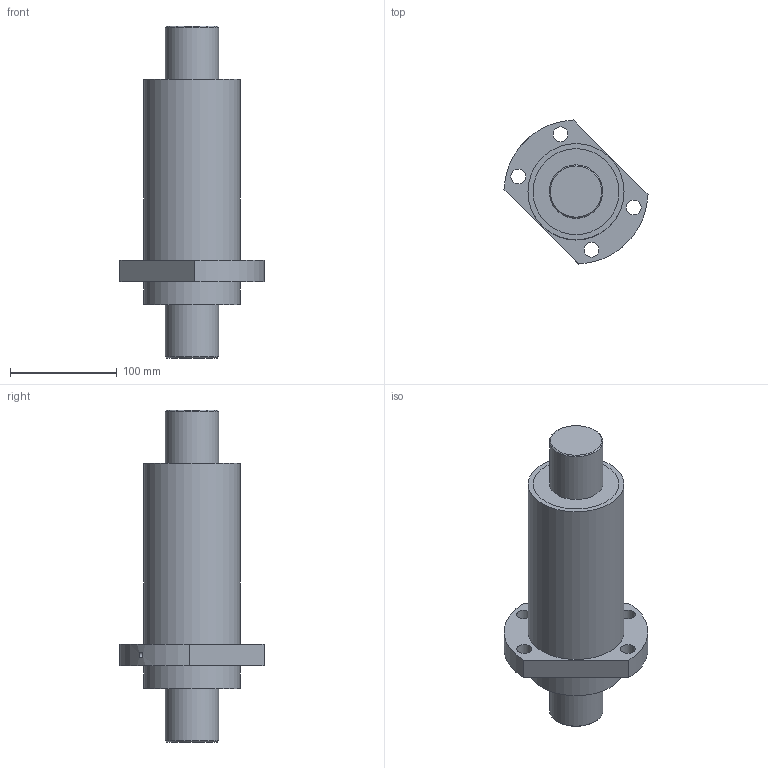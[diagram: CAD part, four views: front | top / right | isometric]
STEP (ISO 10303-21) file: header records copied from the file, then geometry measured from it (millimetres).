
FILE_DESCRIPTION(/* description */ (''),/* implementation_level */ '2;1');
FILE_NAME(/* name */ 'SFY501001.stp',/* time_stamp */ '2014-02-21T10:45:30+08:00',/* author */ (''),/* organization */ (''),/* preprocessor_version */ 'ST-DEVELOPER v11',/* originating_system */ 'SIEMENS UGS NX 6.0',/* authorisation */ '');
FILE_SCHEMA (('CONFIG_CONTROL_DESIGN'));
Length unit declared in the file: millimetre
Products named in the file (1): fann4717bke6
Bounding box: 134.91 x 134.91 x 311 mm (x, y, z)
Volume: 1626172 mm3; surface area: 191308.2 mm2
Topology: 4 solids, 4 shells, 52 faces, 93 edges, 63 vertices
Faces by surface type: cylinder 27, plane 23, cone 2
Full cylindrical faces by diameter (mm): 4 x1, 5 x1, 14 x4, 50 x4, 79 x4, 80.5 x4, 82 x4, 90 x2
Entity records: 1340 total; most frequent: CARTESIAN_POINT 288, DIRECTION 220, ORIENTED_EDGE 124, EDGE_LOOP 106, AXIS2_PLACEMENT_3D 106, FACE_BOUND 100, EDGE_CURVE 62, VERTEX_POINT 58
